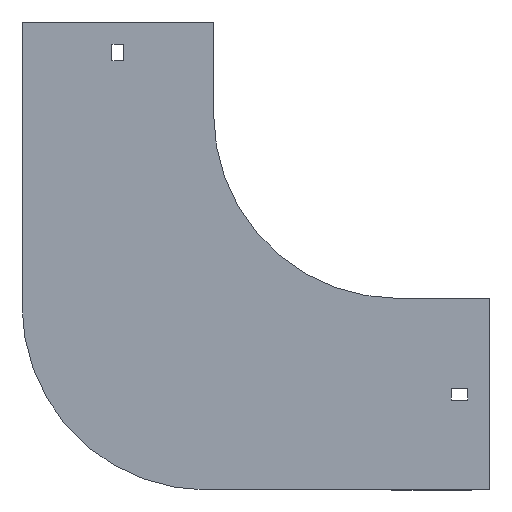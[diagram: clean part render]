
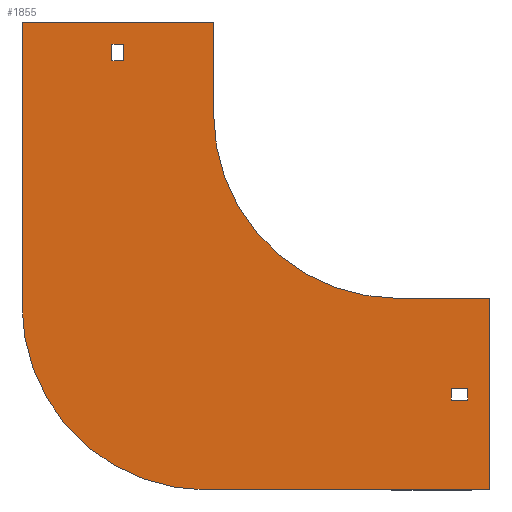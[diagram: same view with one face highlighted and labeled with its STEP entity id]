
A CAD part, front view. The second image highlights one B-rep face of the part: STEP entity #1855.
In plain terms, the highlighted planar face has unit normal (0, -1, 0).
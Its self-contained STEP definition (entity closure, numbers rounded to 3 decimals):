
#9 = ORIENTED_EDGE ( 'NONE', *, *, #515, .F. ) ;
#12 = CARTESIAN_POINT ( 'NONE',  ( 38., 0., -155.25 ) ) ;
#16 = EDGE_LOOP ( 'NONE', ( #1247, #567, #803, #311 ) ) ;
#23 = CARTESIAN_POINT ( 'NONE',  ( -155.25, 0., 29. ) ) ;
#29 = CARTESIAN_POINT ( 'NONE',  ( 0., 0., 0. ) ) ;
#37 = CARTESIAN_POINT ( 'NONE',  ( -155.25, 0., 29. ) ) ;
#39 = EDGE_CURVE ( 'NONE', #1320, #154, #1606, .T. ) ;
#41 = CARTESIAN_POINT ( 'NONE',  ( -148.75, 0., 29. ) ) ;
#61 = FACE_OUTER_BOUND ( 'NONE', #847, .T. ) ;
#90 = VECTOR ( 'NONE', #1397, 1000. ) ;
#98 = EDGE_CURVE ( 'NONE', #302, #1320, #1270, .T. ) ;
#102 = CARTESIAN_POINT ( 'NONE',  ( 0., 0., -100. ) ) ;
#123 = VECTOR ( 'NONE', #1105, 1000. ) ;
#154 = VERTEX_POINT ( 'NONE', #1572 ) ;
#168 = CARTESIAN_POINT ( 'NONE',  ( -148.75, 0., 29. ) ) ;
#169 = VERTEX_POINT ( 'NONE', #984 ) ;
#171 = DIRECTION ( 'NONE',  ( 1., 0., 0. ) ) ;
#178 = LINE ( 'NONE', #23, #1462 ) ;
#191 = VECTOR ( 'NONE', #1291, 1000. ) ;
#220 = VECTOR ( 'NONE', #648, 1000. ) ;
#248 = VERTEX_POINT ( 'NONE', #1718 ) ;
#281 = VERTEX_POINT ( 'NONE', #1477 ) ;
#301 = VERTEX_POINT ( 'NONE', #729 ) ;
#302 = VERTEX_POINT ( 'NONE', #411 ) ;
#311 = ORIENTED_EDGE ( 'NONE', *, *, #1214, .T. ) ;
#354 = ORIENTED_EDGE ( 'NONE', *, *, #1559, .F. ) ;
#356 = CARTESIAN_POINT ( 'NONE',  ( -204., 0., -104. ) ) ;
#385 = VECTOR ( 'NONE', #1856, 1000. ) ;
#393 = ORIENTED_EDGE ( 'NONE', *, *, #1493, .F. ) ;
#411 = CARTESIAN_POINT ( 'NONE',  ( -100., 0., 0. ) ) ;
#416 = VECTOR ( 'NONE', #1370, 1000. ) ;
#425 = EDGE_CURVE ( 'NONE', #281, #762, #931, .T. ) ;
#426 = CIRCLE ( 'NONE', #1177, 100. ) ;
#470 = EDGE_CURVE ( 'NONE', #1610, #1784, #1531, .T. ) ;
#472 = ORIENTED_EDGE ( 'NONE', *, *, #425, .F. ) ;
#476 = CARTESIAN_POINT ( 'NONE',  ( -104., 0., -204. ) ) ;
#490 = DIRECTION ( 'NONE',  ( 1., 0., 0. ) ) ;
#515 = EDGE_CURVE ( 'NONE', #1897, #281, #1411, .T. ) ;
#521 = LINE ( 'NONE', #1547, #220 ) ;
#523 = EDGE_CURVE ( 'NONE', #169, #1897, #662, .T. ) ;
#542 = VECTOR ( 'NONE', #1551, 1000. ) ;
#554 = ORIENTED_EDGE ( 'NONE', *, *, #1688, .F. ) ;
#567 = ORIENTED_EDGE ( 'NONE', *, *, #1342, .T. ) ;
#572 = AXIS2_PLACEMENT_3D ( 'NONE', #1125, #1003, #1720 ) ;
#579 = DIRECTION ( 'NONE',  ( 0., 1., 0. ) ) ;
#583 = ORIENTED_EDGE ( 'NONE', *, *, #39, .F. ) ;
#613 = ORIENTED_EDGE ( 'NONE', *, *, #1508, .F. ) ;
#648 = DIRECTION ( 'NONE',  ( 0., 0., -1. ) ) ;
#662 = LINE ( 'NONE', #950, #542 ) ;
#674 = VECTOR ( 'NONE', #490, 1000. ) ;
#692 = LINE ( 'NONE', #1298, #1323 ) ;
#729 = CARTESIAN_POINT ( 'NONE',  ( 50., 0., -204. ) ) ;
#733 = CARTESIAN_POINT ( 'NONE',  ( -104., 0., -104. ) ) ;
#753 = CARTESIAN_POINT ( 'NONE',  ( -204., 0., 50. ) ) ;
#762 = VERTEX_POINT ( 'NONE', #1348 ) ;
#780 = DIRECTION ( 'NONE',  ( 0., 0., 1. ) ) ;
#790 = CARTESIAN_POINT ( 'NONE',  ( -155.25, 0., 29. ) ) ;
#796 = CARTESIAN_POINT ( 'NONE',  ( -204., 0., 50. ) ) ;
#803 = ORIENTED_EDGE ( 'NONE', *, *, #470, .T. ) ;
#847 = EDGE_LOOP ( 'NONE', ( #613, #1457, #1916, #1833, #354, #583, #1480, #554 ) ) ;
#931 = LINE ( 'NONE', #1533, #1236 ) ;
#938 = CARTESIAN_POINT ( 'NONE',  ( -155.25, 0., 38. ) ) ;
#950 = CARTESIAN_POINT ( 'NONE',  ( 29., 0., -148.75 ) ) ;
#984 = CARTESIAN_POINT ( 'NONE',  ( 38., 0., -148.75 ) ) ;
#1003 = DIRECTION ( 'NONE',  ( 0., -1., 0. ) ) ;
#1053 = DIRECTION ( 'NONE',  ( 0., 0., 1. ) ) ;
#1083 = VERTEX_POINT ( 'NONE', #753 ) ;
#1105 = DIRECTION ( 'NONE',  ( 0., 0., -1. ) ) ;
#1106 = DIRECTION ( 'NONE',  ( -1., 0., 0. ) ) ;
#1125 = CARTESIAN_POINT ( 'NONE',  ( 0., 0., 0. ) ) ;
#1145 = FACE_BOUND ( 'NONE', #16, .T. ) ;
#1148 = DIRECTION ( 'NONE',  ( 0., 0., -1. ) ) ;
#1161 = CARTESIAN_POINT ( 'NONE',  ( -148.75, 0., 38. ) ) ;
#1174 = CARTESIAN_POINT ( 'NONE',  ( -204., 0., -104. ) ) ;
#1177 = AXIS2_PLACEMENT_3D ( 'NONE', #733, #579, #1053 ) ;
#1195 = ORIENTED_EDGE ( 'NONE', *, *, #523, .F. ) ;
#1214 = EDGE_CURVE ( 'NONE', #1784, #1777, #1400, .T. ) ;
#1224 = LINE ( 'NONE', #796, #674 ) ;
#1236 = VECTOR ( 'NONE', #171, 1000. ) ;
#1237 = LINE ( 'NONE', #356, #90 ) ;
#1244 = DIRECTION ( 'NONE',  ( 0., 0., -1. ) ) ;
#1247 = ORIENTED_EDGE ( 'NONE', *, *, #1402, .T. ) ;
#1270 = CIRCLE ( 'NONE', #1324, 100. ) ;
#1291 = DIRECTION ( 'NONE',  ( -1., 0., 0. ) ) ;
#1298 = CARTESIAN_POINT ( 'NONE',  ( -100., 0., 50. ) ) ;
#1320 = VERTEX_POINT ( 'NONE', #102 ) ;
#1323 = VECTOR ( 'NONE', #1148, 1000. ) ;
#1324 = AXIS2_PLACEMENT_3D ( 'NONE', #29, #1521, #1244 ) ;
#1342 = EDGE_CURVE ( 'NONE', #1594, #1610, #1529, .T. ) ;
#1346 = DIRECTION ( 'NONE',  ( 1., 0., 0. ) ) ;
#1348 = CARTESIAN_POINT ( 'NONE',  ( 38., 0., -155.25 ) ) ;
#1370 = DIRECTION ( 'NONE',  ( 0., 0., 1. ) ) ;
#1397 = DIRECTION ( 'NONE',  ( 0., 0., 1. ) ) ;
#1400 = LINE ( 'NONE', #37, #1443 ) ;
#1402 = EDGE_CURVE ( 'NONE', #1777, #1594, #178, .T. ) ;
#1408 = CARTESIAN_POINT ( 'NONE',  ( -155.25, 0., 38. ) ) ;
#1411 = LINE ( 'NONE', #1685, #385 ) ;
#1443 = VECTOR ( 'NONE', #1106, 1000. ) ;
#1457 = ORIENTED_EDGE ( 'NONE', *, *, #1511, .F. ) ;
#1462 = VECTOR ( 'NONE', #780, 1000. ) ;
#1477 = CARTESIAN_POINT ( 'NONE',  ( 29., 0., -155.25 ) ) ;
#1479 = CARTESIAN_POINT ( 'NONE',  ( 0., 0., -100. ) ) ;
#1480 = ORIENTED_EDGE ( 'NONE', *, *, #98, .F. ) ;
#1493 = EDGE_CURVE ( 'NONE', #762, #169, #1853, .T. ) ;
#1508 = EDGE_CURVE ( 'NONE', #1083, #248, #1224, .T. ) ;
#1511 = EDGE_CURVE ( 'NONE', #1728, #1083, #1237, .T. ) ;
#1521 = DIRECTION ( 'NONE',  ( 0., -1., 0. ) ) ;
#1529 = LINE ( 'NONE', #938, #1926 ) ;
#1531 = LINE ( 'NONE', #168, #123 ) ;
#1533 = CARTESIAN_POINT ( 'NONE',  ( 29., 0., -155.25 ) ) ;
#1547 = CARTESIAN_POINT ( 'NONE',  ( 50., 0., -100. ) ) ;
#1551 = DIRECTION ( 'NONE',  ( -1., 0., 0. ) ) ;
#1559 = EDGE_CURVE ( 'NONE', #154, #301, #521, .T. ) ;
#1572 = CARTESIAN_POINT ( 'NONE',  ( 50., 0., -100. ) ) ;
#1575 = LINE ( 'NONE', #1866, #191 ) ;
#1594 = VERTEX_POINT ( 'NONE', #1408 ) ;
#1606 = LINE ( 'NONE', #1479, #1913 ) ;
#1609 = EDGE_CURVE ( 'NONE', #301, #1795, #1575, .T. ) ;
#1610 = VERTEX_POINT ( 'NONE', #1161 ) ;
#1685 = CARTESIAN_POINT ( 'NONE',  ( 29., 0., -155.25 ) ) ;
#1688 = EDGE_CURVE ( 'NONE', #248, #302, #692, .T. ) ;
#1709 = EDGE_CURVE ( 'NONE', #1795, #1728, #426, .T. ) ;
#1718 = CARTESIAN_POINT ( 'NONE',  ( -100., 0., 50. ) ) ;
#1720 = DIRECTION ( 'NONE',  ( 0., 0., -1. ) ) ;
#1727 = PLANE ( 'NONE',  #572 ) ;
#1728 = VERTEX_POINT ( 'NONE', #1174 ) ;
#1777 = VERTEX_POINT ( 'NONE', #790 ) ;
#1784 = VERTEX_POINT ( 'NONE', #41 ) ;
#1795 = VERTEX_POINT ( 'NONE', #476 ) ;
#1818 = DIRECTION ( 'NONE',  ( 1., 0., 0. ) ) ;
#1833 = ORIENTED_EDGE ( 'NONE', *, *, #1609, .F. ) ;
#1844 = EDGE_LOOP ( 'NONE', ( #393, #472, #9, #1195 ) ) ;
#1848 = FACE_BOUND ( 'NONE', #1844, .T. ) ;
#1853 = LINE ( 'NONE', #12, #416 ) ;
#1855 = ADVANCED_FACE ( 'NONE', ( #1145, #61, #1848 ), #1727, .T. ) ;
#1856 = DIRECTION ( 'NONE',  ( 0., 0., -1. ) ) ;
#1861 = CARTESIAN_POINT ( 'NONE',  ( 29., 0., -148.75 ) ) ;
#1866 = CARTESIAN_POINT ( 'NONE',  ( 50., 0., -204. ) ) ;
#1897 = VERTEX_POINT ( 'NONE', #1861 ) ;
#1913 = VECTOR ( 'NONE', #1346, 1000. ) ;
#1916 = ORIENTED_EDGE ( 'NONE', *, *, #1709, .F. ) ;
#1926 = VECTOR ( 'NONE', #1818, 1000. ) ;
